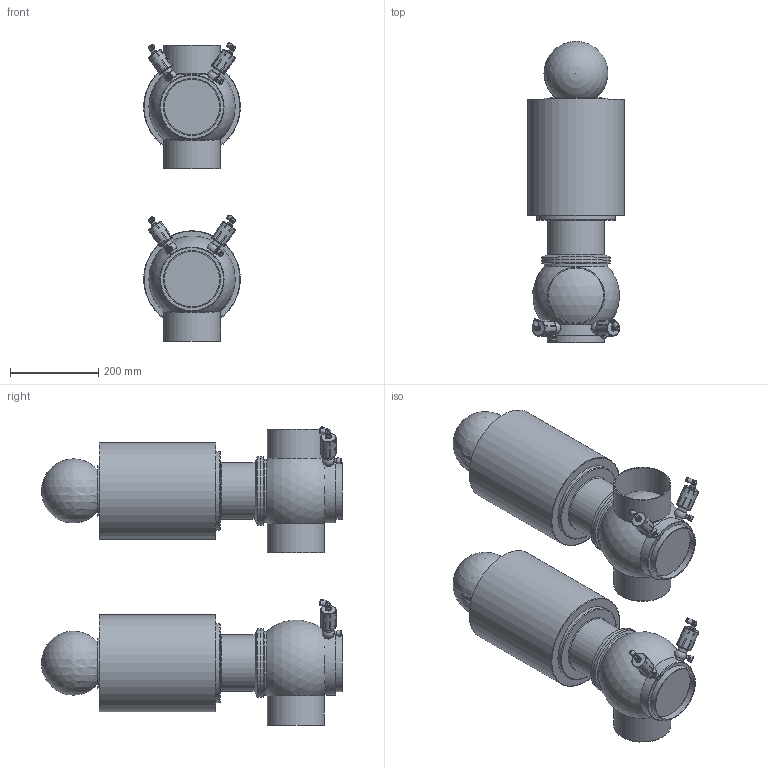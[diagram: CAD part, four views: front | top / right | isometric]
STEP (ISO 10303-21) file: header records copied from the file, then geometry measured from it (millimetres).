
FILE_DESCRIPTION(/* description */ (''),/* implementation_level */ '2;1');
FILE_NAME(/* name */ 'C:\Users\marz-m\Downloads\BZZAW3 3D STEP\BZAW3-DN125-SAL.stp',/* time_stamp */ '2018-09-26T16:23:40+02:00',/* author */ ('marz-m'),/* organization */ (''),/* preprocessor_version */ 'ST-DEVELOPER v17',/* originating_system */ 'Autodesk Inventor 2018',/* authorisation */ '');
FILE_SCHEMA (('AUTOMOTIVE_DESIGN { 1 0 10303 214 3 1 1 }'));
Length unit declared in the file: millimetre
Products named in the file (7): BZAW3-DN125-SAL; COR-INF-L-BZAW-DN0125(129X2)-SALD; SAGOMA-GIOTTO-; CIL134; COR-INF-T-BZAW-DN0125(129X2)-SALD; ASSEMBLAGGIO DN125 SPEC.; Valvolina 3A
Assembly tree (12 placements, depth 2):
  BZAW3-DN125-SAL
    Valvolina 3A  x4
    SAGOMA-GIOTTO-  x2
    CIL134  x2
    ASSEMBLAGGIO DN125 SPEC.  x2
    COR-INF-L-BZAW-DN0125(129X2)-SALD
    COR-INF-T-BZAW-DN0125(129X2)-SALD
Bounding box: 219 x 680.47 x 674.34 mm (x, y, z)
Volume: 34420728.2 mm3; surface area: 1354433.6 mm2
Topology: 12 solids, 12 shells, 602 faces, 1718 edges, 1212 vertices
Faces by surface type: plane 273, cylinder 190, cone 68, bspline 44, torus 16, sphere 11
Full cylindrical faces by diameter (mm): 2 x8, 4 x4, 6 x16, 7 x4, 8 x4, 8.1 x4, 10 x4, 11 x4, 11.5 x4, 12.917 x4, 13.157 x4, 14 x4, 15.9 x4, 16 x4, 22 x4, 35 x4, 113.8 x2, 125 x5, 128 x2, 129 x5, 144 x2, 145 x2, 155 x4, 178 x2, 219 x2
Entity records: 9225 total; most frequent: CARTESIAN_POINT 3311, DIRECTION 1225, ORIENTED_EDGE 1152, EDGE_CURVE 576, AXIS2_PLACEMENT_3D 517, VERTEX_POINT 418, CIRCLE 295, EDGE_LOOP 250
